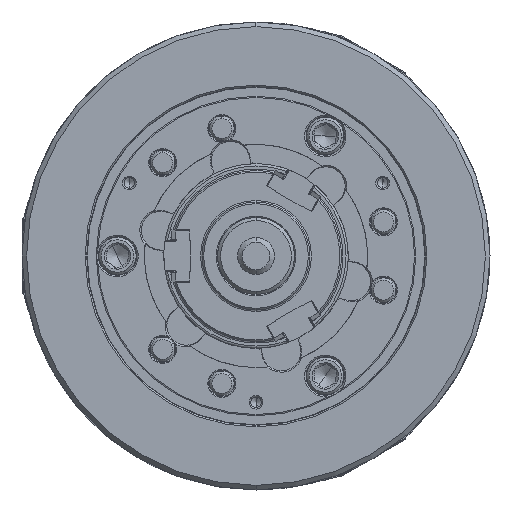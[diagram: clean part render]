
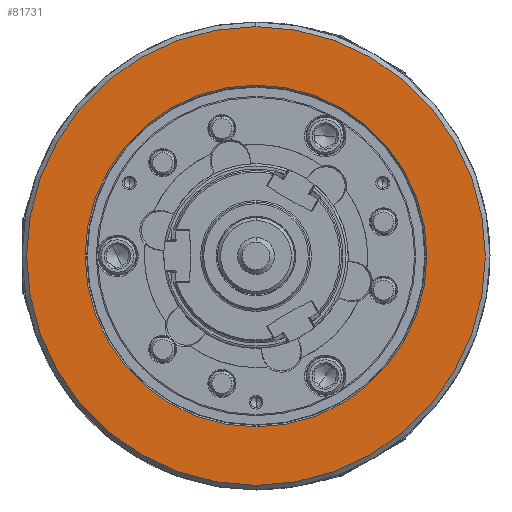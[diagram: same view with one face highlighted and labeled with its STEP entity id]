
A CAD part, left-side view. The second image highlights one B-rep face of the part: STEP entity #81731.
In plain terms, the highlighted planar face has unit normal (-1, 0, 0).
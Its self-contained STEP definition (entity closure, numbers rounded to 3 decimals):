
#5311 = CIRCLE ( 'NONE', #7311, 111. ) ;
#6611 = ORIENTED_EDGE ( 'NONE', *, *, #92370, .F. ) ;
#7311 = AXIS2_PLACEMENT_3D ( 'NONE', #63927, #101931, #119450 ) ;
#9189 = EDGE_LOOP ( 'NONE', ( #54719, #6611 ) ) ;
#10027 = DIRECTION ( 'NONE',  ( 0., 0., -1. ) ) ;
#10573 = AXIS2_PLACEMENT_3D ( 'NONE', #90278, #62842, #72205 ) ;
#12656 = AXIS2_PLACEMENT_3D ( 'NONE', #32257, #98351, #106473 ) ;
#17129 = VERTEX_POINT ( 'NONE', #121483 ) ;
#18741 = CARTESIAN_POINT ( 'NONE',  ( -106., 0., 0. ) ) ;
#19355 = DIRECTION ( 'NONE',  ( 1., 0., 0. ) ) ;
#19673 = AXIS2_PLACEMENT_3D ( 'NONE', #18741, #19355, #10027 ) ;
#32257 = CARTESIAN_POINT ( 'NONE',  ( -106., 0., 0. ) ) ;
#32760 = ORIENTED_EDGE ( 'NONE', *, *, #53495, .T. ) ;
#34155 = FACE_OUTER_BOUND ( 'NONE', #9189, .T. ) ;
#36618 = EDGE_CURVE ( 'NONE', #40109, #17129, #5311, .T. ) ;
#40109 = VERTEX_POINT ( 'NONE', #42716 ) ;
#42716 = CARTESIAN_POINT ( 'NONE',  ( -106., 0., -111. ) ) ;
#46822 = CARTESIAN_POINT ( 'NONE',  ( -106., 0., 0. ) ) ;
#48051 = DIRECTION ( 'NONE',  ( 0., 0., -1. ) ) ;
#53495 = EDGE_CURVE ( 'NONE', #17129, #40109, #87317, .T. ) ;
#54719 = ORIENTED_EDGE ( 'NONE', *, *, #91799, .F. ) ;
#58632 = DIRECTION ( 'NONE',  ( 1., 0., 0. ) ) ;
#62842 = DIRECTION ( 'NONE',  ( 1., 0., 0. ) ) ;
#63927 = CARTESIAN_POINT ( 'NONE',  ( -106., 0., 0. ) ) ;
#64427 = VERTEX_POINT ( 'NONE', #110860 ) ;
#67917 = ORIENTED_EDGE ( 'NONE', *, *, #36618, .T. ) ;
#70474 = AXIS2_PLACEMENT_3D ( 'NONE', #46822, #58632, #48051 ) ;
#72205 = DIRECTION ( 'NONE',  ( 0., 0., -1. ) ) ;
#81731 = ADVANCED_FACE ( 'NONE', ( #34155, #91530 ), #118336, .F. ) ;
#86117 = CARTESIAN_POINT ( 'NONE',  ( -106., 0., -149. ) ) ;
#87317 = CIRCLE ( 'NONE', #19673, 111. ) ;
#90278 = CARTESIAN_POINT ( 'NONE',  ( -106., -111., 0. ) ) ;
#90403 = CIRCLE ( 'NONE', #70474, 149. ) ;
#91530 = FACE_BOUND ( 'NONE', #119733, .T. ) ;
#91799 = EDGE_CURVE ( 'NONE', #92333, #64427, #106144, .T. ) ;
#92333 = VERTEX_POINT ( 'NONE', #86117 ) ;
#92370 = EDGE_CURVE ( 'NONE', #64427, #92333, #90403, .T. ) ;
#98351 = DIRECTION ( 'NONE',  ( 1., 0., 0. ) ) ;
#101931 = DIRECTION ( 'NONE',  ( 1., 0., 0. ) ) ;
#106144 = CIRCLE ( 'NONE', #12656, 149. ) ;
#106473 = DIRECTION ( 'NONE',  ( 0., 0., -1. ) ) ;
#110860 = CARTESIAN_POINT ( 'NONE',  ( -106., 0., 149. ) ) ;
#118336 = PLANE ( 'NONE',  #10573 ) ;
#119450 = DIRECTION ( 'NONE',  ( 0., 0., -1. ) ) ;
#119733 = EDGE_LOOP ( 'NONE', ( #32760, #67917 ) ) ;
#121483 = CARTESIAN_POINT ( 'NONE',  ( -106., 0., 111. ) ) ;
